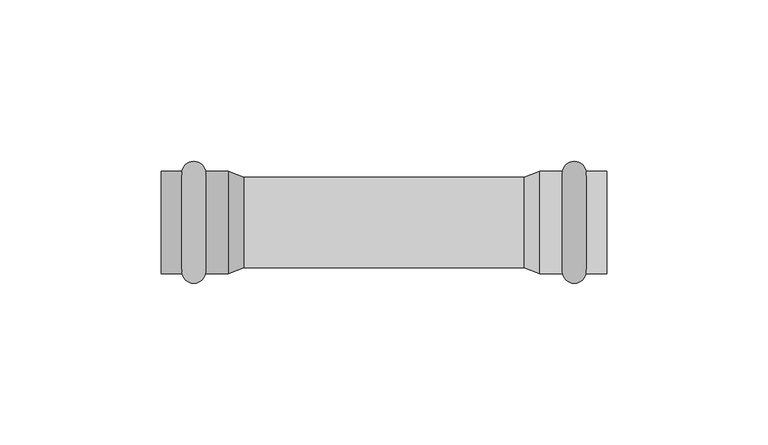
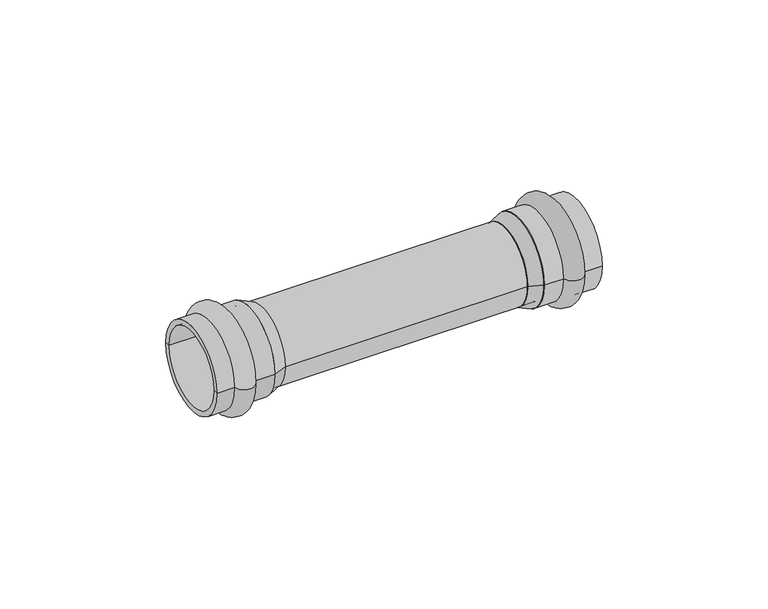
"""IFC4 building model written with IfcOpenShell, lengths in millimetres: pipe fitting geometry, VALTEC_VTi.903.I_Соединитель прямой нержавеющая сталь : VTi.903.I."""

from ifc_helpers import new_model, si_unit, point, frame, origin, origin_2d, place, context, project, spatial, polyline, circle_curve, ellipse_curve, trimmed, segment, composite_curve, outline, extrude, source, transform, mapped, element, save
from ifc_brep_helpers import plane_surface, cylinder_surface, revolved_surface, advanced_brep


def pipe_fitting_e29472c0(model_context):
    return source(origin(), model_context, "Body", "SolidModel", [
        advanced_brep(
        [(131.6242346, 15.9, 0.0), (131.6242346, -15.9, 0.0), (124.2757654, -15.9, 0.0), (124.2757654, 15.9, 0.0), (138.0, 15.9, 0.0), (138.0, -15.9, 0.0), (138.0, 14.0, 0.0), (138.0, -14.0, 0.0), (117.3, 14.0, 0.0), (117.3, -14.0, 0.0), (117.3, 15.9, 0.0), (117.3, -15.9, 0.0)],
        [
            (0, 1, circle_curve(frame((131.6242346, 0.0, 0.0), z_axis=(-1.0, 0.0, 0.0), x_axis=(0.0, -1.0, 0.0)), 15.9)),
            (1, 2, circle_curve(frame((127.95, -15.15, 0.0), z_axis=(0.0, 0.0, -1.0), x_axis=(-1.0, 0.0, 0.0)), 3.75)),
            (2, 3, circle_curve(frame((124.2757654, 0.0, 0.0), z_axis=(1.0, 0.0, 0.0), x_axis=(0.0, -1.0, 0.0)), 15.9)),
            (3, 0, circle_curve(frame((127.95, 15.15, 0.0), z_axis=(0.0, 0.0, -1.0), x_axis=(-1.0, 0.0, 0.0)), 3.75)),
            (1, 0, circle_curve(frame((131.6242346, 0.0, 0.0), z_axis=(-1.0, 0.0, 0.0), x_axis=(0.0, -1.0, 0.0)), 15.9)),
            (3, 2, circle_curve(frame((124.2757654, 0.0, 0.0), z_axis=(1.0, 0.0, 0.0), x_axis=(0.0, -1.0, 0.0)), 15.9)),
            (4, 5, circle_curve(frame((138.0, 0.0, 0.0), z_axis=(-1.0, 0.0, 0.0), x_axis=(0.0, -1.0, 0.0)), 15.9)),
            (5, 1),
            (0, 4),
            (5, 4, circle_curve(frame((138.0, 0.0, 0.0), z_axis=(-1.0, 0.0, 0.0), x_axis=(0.0, -1.0, 0.0)), 15.9)),
            (6, 7, circle_curve(frame((138.0, 0.0, 0.0), z_axis=(-1.0, 0.0, 0.0), x_axis=(0.0, -1.0, 0.0)), 14.0)),
            (7, 5),
            (4, 6),
            (7, 6, circle_curve(frame((138.0, 0.0, 0.0), z_axis=(-1.0, 0.0, 0.0), x_axis=(0.0, -1.0, 0.0)), 14.0)),
            (8, 9, circle_curve(frame((117.3, 0.0, 0.0), z_axis=(-1.0, 0.0, 0.0), x_axis=(0.0, -1.0, 0.0)), 14.0)),
            (9, 7),
            (6, 8),
            (9, 8, circle_curve(frame((117.3, 0.0, 0.0), z_axis=(-1.0, 0.0, 0.0), x_axis=(0.0, -1.0, 0.0)), 14.0)),
            (10, 11, circle_curve(frame((117.3, 0.0, 0.0), z_axis=(-1.0, 0.0, 0.0), x_axis=(0.0, -1.0, 0.0)), 15.9)),
            (11, 9),
            (8, 10),
            (11, 10, circle_curve(frame((117.3, 0.0, 0.0), z_axis=(-1.0, 0.0, 0.0), x_axis=(0.0, -1.0, 0.0)), 15.9)),
            (2, 11),
            (10, 3),
        ],
        [
            revolved_surface(trimmed(ellipse_curve(frame((127.95, -15.15, 0.0), z_axis=(0.0, 0.0, 1.0), x_axis=(-1.0, 0.0, 0.0)), 3.75, 3.75), [point((124.2757654, -15.9, 0.0))], [point((131.6242346, -15.9, 0.0))], True, "CARTESIAN"), (141.5364426, 0.0, 0.0), (1.0, 0.0, 0.0)),
            cylinder_surface(frame((141.5364426, 0.0, 0.0), z_axis=(1.0, 0.0, 0.0), x_axis=(0.0, -1.0, 0.0)), 15.9),
            plane_surface(frame((138.0, 0.0, 0.0), z_axis=(1.0, 0.0, 0.0), x_axis=(0.0, -1.0, 0.0))),
            revolved_surface(polyline([(138.0, -14.0, 0.0), (117.3, -14.0, 0.0)]), (141.5364426, 0.0, 0.0), (1.0, 0.0, 0.0)),
            plane_surface(frame((117.3, 0.0, 0.0), z_axis=(-1.0, 0.0, 0.0), x_axis=(0.0, -1.0, 0.0))),
        ],
        [
            (0, [[1, 2, 3, 4]]),
            (0, [[5, -4, 6, -2]]),
            (1, [[7, 8, -1, 9]]),
            (1, [[10, -9, -5, -8]]),
            (2, [[11, 12, -7, 13]]),
            (2, [[14, -13, -10, -12]]),
            (3, [[15, 16, -11, 17]]),
            (3, [[18, -17, -14, -16]]),
            (4, [[19, 20, -15, 21]]),
            (4, [[22, -21, -18, -20]]),
            (1, [[-3, 23, -19, 24]]),
            (1, [[-6, -24, -22, -23]]),
        ],
    ),
        advanced_brep(
        [(6.3757654, -15.9, 0.0), (6.3757654, 15.9, 0.0), (13.7242346, 15.9, 0.0), (13.7242346, -15.9, 0.0), (0.0, -15.9, 0.0), (0.0, 15.9, 0.0), (0.0, -14.0, 0.0), (0.0, 14.0, 0.0), (20.7, -14.0, 0.0), (20.7, 14.0, 0.0), (20.7, -15.9, 0.0), (20.7, 15.9, 0.0)],
        [
            (0, 1, circle_curve(frame((6.3757654, 0.0, 0.0), z_axis=(1.0, 0.0, 0.0), x_axis=(0.0, 1.0, 0.0)), 15.9)),
            (1, 2, circle_curve(frame((10.05, 15.15, 0.0), z_axis=(0.0, 0.0, -1.0), x_axis=(1.0, 0.0, 0.0)), 3.75)),
            (2, 3, circle_curve(frame((13.7242346, 0.0, 0.0), z_axis=(-1.0, 0.0, 0.0), x_axis=(0.0, 1.0, 0.0)), 15.9)),
            (3, 0, circle_curve(frame((10.05, -15.15, 0.0), z_axis=(0.0, 0.0, -1.0), x_axis=(1.0, 0.0, 0.0)), 3.75)),
            (1, 0, circle_curve(frame((6.3757654, 0.0, 0.0), z_axis=(1.0, 0.0, 0.0), x_axis=(0.0, 1.0, 0.0)), 15.9)),
            (3, 2, circle_curve(frame((13.7242346, 0.0, 0.0), z_axis=(-1.0, 0.0, 0.0), x_axis=(0.0, 1.0, 0.0)), 15.9)),
            (4, 5, circle_curve(frame((0.0, 0.0, 0.0), z_axis=(1.0, 0.0, 0.0), x_axis=(0.0, 1.0, 0.0)), 15.9)),
            (5, 1),
            (0, 4),
            (5, 4, circle_curve(frame((0.0, 0.0, 0.0), z_axis=(1.0, 0.0, 0.0), x_axis=(0.0, 1.0, 0.0)), 15.9)),
            (6, 7, circle_curve(frame((0.0, 0.0, 0.0), z_axis=(1.0, 0.0, 0.0), x_axis=(0.0, 1.0, 0.0)), 14.0)),
            (7, 5),
            (4, 6),
            (7, 6, circle_curve(frame((0.0, 0.0, 0.0), z_axis=(1.0, 0.0, 0.0), x_axis=(0.0, 1.0, 0.0)), 14.0)),
            (8, 9, circle_curve(frame((20.7, 0.0, 0.0), z_axis=(1.0, 0.0, 0.0), x_axis=(0.0, 1.0, 0.0)), 14.0)),
            (9, 7),
            (6, 8),
            (9, 8, circle_curve(frame((20.7, 0.0, 0.0), z_axis=(1.0, 0.0, 0.0), x_axis=(0.0, 1.0, 0.0)), 14.0)),
            (10, 11, circle_curve(frame((20.7, 0.0, 0.0), z_axis=(1.0, 0.0, 0.0), x_axis=(0.0, 1.0, 0.0)), 15.9)),
            (11, 9),
            (8, 10),
            (11, 10, circle_curve(frame((20.7, 0.0, 0.0), z_axis=(1.0, 0.0, 0.0), x_axis=(0.0, 1.0, 0.0)), 15.9)),
            (2, 11),
            (10, 3),
        ],
        [
            revolved_surface(trimmed(ellipse_curve(frame((10.05, 15.15, 0.0), z_axis=(0.0, 0.0, 1.0), x_axis=(1.0, 0.0, 0.0)), 3.75, 3.75), [point((13.7242346, 15.9, 0.0))], [point((6.3757654, 15.9, 0.0))], True, "CARTESIAN"), (-3.5364426, 0.0, 0.0), (-1.0, 0.0, 0.0)),
            cylinder_surface(frame((-3.5364426, 0.0, 0.0), z_axis=(-1.0, 0.0, 0.0), x_axis=(0.0, 1.0, 0.0)), 15.9),
            plane_surface(frame((0.0, 0.0, 0.0), z_axis=(-1.0, 0.0, 0.0), x_axis=(0.0, 1.0, 0.0))),
            revolved_surface(polyline([(0.0, 14.0, 0.0), (20.7, 14.0, 0.0)]), (-3.5364426, 0.0, 0.0), (-1.0, 0.0, 0.0)),
            plane_surface(frame((20.7, 0.0, 0.0), z_axis=(1.0, 0.0, 0.0), x_axis=(0.0, 1.0, 0.0))),
        ],
        [
            (0, [[1, 2, 3, 4]]),
            (0, [[5, -4, 6, -2]]),
            (1, [[7, 8, -1, 9]]),
            (1, [[10, -9, -5, -8]]),
            (2, [[11, 12, -7, 13]]),
            (2, [[14, -13, -10, -12]]),
            (3, [[15, 16, -11, 17]]),
            (3, [[18, -17, -14, -16]]),
            (4, [[19, 20, -15, 21]]),
            (4, [[22, -21, -18, -20]]),
            (1, [[-3, 23, -19, 24]]),
            (1, [[-6, -24, -22, -23]]),
        ],
    ),
        advanced_brep(
        [(20.7, -15.9, 0.0), (20.7, 15.9, 0.0), (25.53, -14.0, 0.0), (25.53, 14.0, 0.0)],
        [
            (0, 1, circle_curve(frame((20.7, 0.0, 0.0), z_axis=(-1.0, 0.0, 0.0), x_axis=(0.0, -1.0, 0.0)), 15.9)),
            (1, 0, circle_curve(frame((20.7, 0.0, 0.0), z_axis=(-1.0, 0.0, 0.0), x_axis=(0.0, 1.0, 0.0)), 15.9)),
            (2, 3, circle_curve(frame((25.53, 0.0, 0.0), z_axis=(1.0, 0.0, 0.0), x_axis=(0.0, 1.0, 0.0)), 14.0)),
            (3, 2, circle_curve(frame((25.53, 0.0, 0.0), z_axis=(1.0, 0.0, 0.0), x_axis=(0.0, -1.0, 0.0)), 14.0)),
            (2, 0),
            (1, 3),
        ],
        [
            plane_surface(frame((20.7, 0.0, 0.0), z_axis=(-1.0, 0.0, 0.0), x_axis=(0.0, 0.0, 1.0))),
            plane_surface(frame((25.53, 0.0, 0.0), z_axis=(1.0, 0.0, 0.0), x_axis=(0.0, 0.0, 1.0))),
            revolved_surface(polyline([(25.53, -14.000000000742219, 0.0), (20.700000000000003, -15.9, 0.0)]), (61.1194737, 0.0, 0.0), (-1.0, 0.0, 0.0)),
            revolved_surface(polyline([(25.53, 14.000000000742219, 0.0), (20.700000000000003, 15.9, 0.0)]), (61.1194737, 0.0, 0.0), (-1.0, 0.0, 0.0)),
        ],
        [
            (0, [[1, 2]]),
            (1, [[3, 4]]),
            (2, [[-3, 5, -2, 6]]),
            (3, [[-4, -6, -1, -5]]),
        ],
    ),
        advanced_brep(
        [(117.3, -15.9, 0.0), (117.3, 15.9, 0.0), (112.47, -14.0, 0.0), (112.47, 14.0, 0.0)],
        [
            (0, 1, circle_curve(frame((117.3, 0.0, 0.0), z_axis=(1.0, 0.0, 0.0), x_axis=(0.0, -1.0, 0.0)), 15.9)),
            (1, 0, circle_curve(frame((117.3, 0.0, 0.0), z_axis=(1.0, 0.0, 0.0), x_axis=(0.0, 1.0, 0.0)), 15.9)),
            (2, 3, circle_curve(frame((112.47, 0.0, 0.0), z_axis=(-1.0, 0.0, 0.0), x_axis=(0.0, 1.0, 0.0)), 14.0)),
            (3, 2, circle_curve(frame((112.47, 0.0, 0.0), z_axis=(-1.0, 0.0, 0.0), x_axis=(0.0, -1.0, 0.0)), 14.0)),
            (3, 1),
            (0, 2),
        ],
        [
            plane_surface(frame((117.3, 0.0, 0.0), z_axis=(1.0, 0.0, 0.0), x_axis=(0.0, 0.0, -1.0))),
            plane_surface(frame((112.47, 0.0, 0.0), z_axis=(-1.0, 0.0, 0.0), x_axis=(0.0, 0.0, -1.0))),
            revolved_surface(polyline([(112.47, 14.000000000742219, 0.0), (117.3, 15.9, 0.0)]), (76.8805263, 0.0, 0.0), (1.0, 0.0, 0.0)),
            revolved_surface(polyline([(112.47, -14.000000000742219, 0.0), (117.3, -15.9, 0.0)]), (76.8805263, 0.0, 0.0), (1.0, 0.0, 0.0)),
        ],
        [
            (0, [[1, 2]]),
            (1, [[3, 4]]),
            (2, [[-4, 5, -1, 6]]),
            (3, [[-3, -6, -2, -5]]),
        ],
    ),
        extrude(outline(composite_curve([segment(trimmed(circle_curve(origin_2d(), 14.0), [point((-14.0, 0.0))], [point((14.0, 0.0))], False, "CARTESIAN"), True, "CONTINUOUS"), segment(trimmed(circle_curve(origin_2d(), 14.0), [point((14.0, 0.0))], [point((-14.0, 0.0))], False, "CARTESIAN"), True, "CONTINUOUS")], self_intersect=False)), frame((20.7, 0.0, 0.0), z_axis=(1.0, 0.0, 0.0), x_axis=(0.0, 1.0, 0.0)), (0.0, 0.0, 1.0), 96.6),
    ])


if __name__ == "__main__":
    model = new_model("IFC4")
    model_context = context("Model", 3, world=origin())
    ifc_project = project(units=[si_unit("LENGTHUNIT", "METRE", prefix="MILLI")], contexts=[model_context])
    site = spatial("IfcSite", under=ifc_project)
    building = spatial("IfcBuilding", under=site)
    placement = place(None, origin())
    pipe_fitting_shape = pipe_fitting_e29472c0(model_context)
    element("IfcPipeFitting", 1, ObjectType="VALTEC_VTi.903.I_Соединитель прямой нержавеющая сталь : VTi.903.I", at=placement, inside=building, context=model_context, shape_type="MappedRepresentation", body=[
        mapped(pipe_fitting_shape, transform((0.0, 0.0, 0.0), x_axis=(1.0, 0.0, 0.0), y_axis=(0.0, 1.0, 0.0), z_axis=(0.0, 0.0, 1.0))),
    ])
    save(model, "model.ifc")
